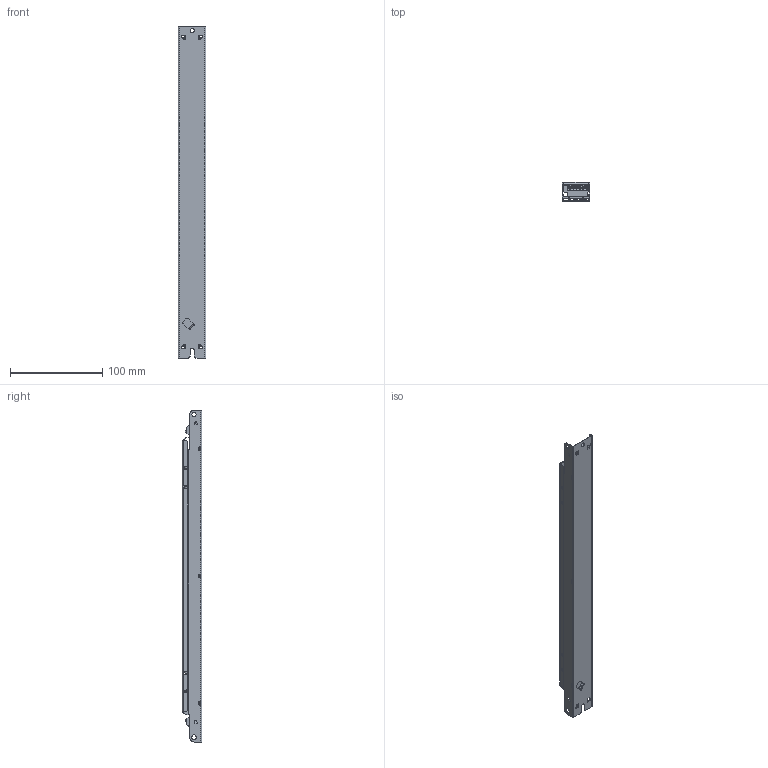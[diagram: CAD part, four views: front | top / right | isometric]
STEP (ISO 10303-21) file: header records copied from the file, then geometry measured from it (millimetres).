
FILE_DESCRIPTION (( 'STEP AP203' ), '1' );
FILE_NAME ('LL1x80.STEP', '2017-02-03T07:48:24', ( '' ), ( '' ), 'SwSTEP 2.0', 'SolidWorks 2014', '' );
FILE_SCHEMA (( 'CONFIG_CONTROL_DESIGN' ));
Length unit declared in the file: millimetre
Products named in the file (1): LL1x80
Bounding box: 30 x 21 x 360 mm (x, y, z)
Volume: 37567.6 mm3; surface area: 95811.9 mm2
Topology: 8 solids, 8 shells, 1308 faces, 3430 edges, 2167 vertices
Faces by surface type: plane 691, cylinder 418, bspline 181, cone 18
Entity records: 51875 total; most frequent: CARTESIAN_POINT 21852, ORIENTED_EDGE 6860, DIRECTION 5241, EDGE_CURVE 3430, VERTEX_POINT 2167, LINE 2101, VECTOR 2101, AXIS2_PLACEMENT_3D 1570
